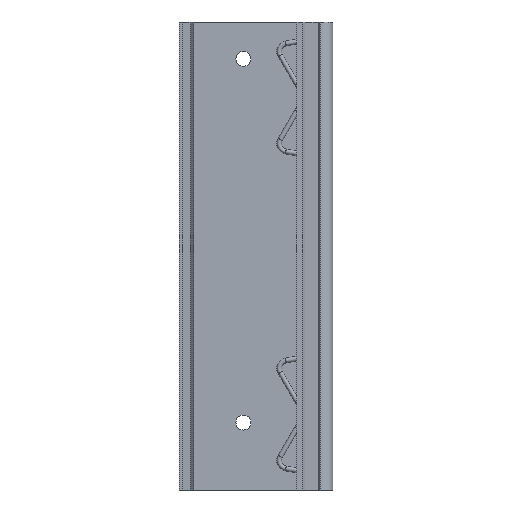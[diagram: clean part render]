
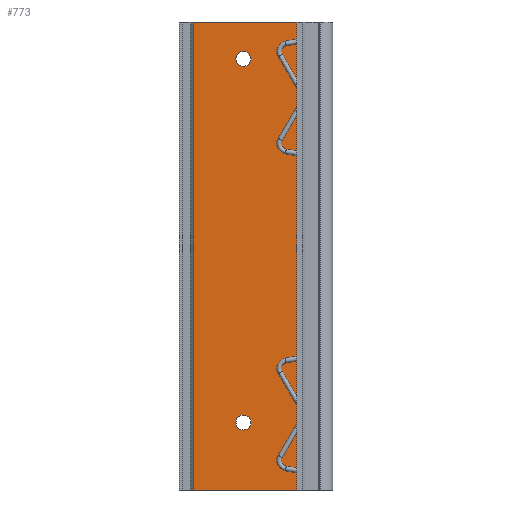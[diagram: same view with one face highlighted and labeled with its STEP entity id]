
A CAD part, left-side view. The second image highlights one B-rep face of the part: STEP entity #773.
In plain terms, the highlighted planar face has unit normal (-1, 0, 0).
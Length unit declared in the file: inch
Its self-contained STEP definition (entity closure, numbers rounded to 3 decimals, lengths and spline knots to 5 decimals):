
#237=DIRECTION('',(0.,1.,0.));
#238=VECTOR('',#237,1.3025);
#239=CARTESIAN_POINT('',(-0.08,0.455,0.98224));
#240=LINE('',#239,#238);
#241=DIRECTION('',(0.,0.,1.));
#242=VECTOR('',#241,5.90551);
#243=CARTESIAN_POINT('',(-0.08,1.7575,0.98224));
#244=LINE('',#243,#242);
#245=DIRECTION('',(0.,1.,0.));
#246=VECTOR('',#245,1.3025);
#247=CARTESIAN_POINT('',(-0.08,0.455,6.88776));
#248=LINE('',#247,#246);
#249=DIRECTION('',(0.,0.,1.));
#250=VECTOR('',#249,5.90551);
#251=CARTESIAN_POINT('',(-0.08,0.455,0.98224));
#252=LINE('',#251,#250);
#253=CARTESIAN_POINT('',(-0.08,1.13,6.42165));
#254=DIRECTION('',(1.,0.,0.));
#255=DIRECTION('',(0.,-1.,0.));
#256=AXIS2_PLACEMENT_3D('',#253,#254,#255);
#258=CARTESIAN_POINT('',(-0.08,1.13,6.42165));
#259=DIRECTION('',(1.,0.,0.));
#260=DIRECTION('',(0.,1.,0.));
#261=AXIS2_PLACEMENT_3D('',#258,#259,#260);
#263=CARTESIAN_POINT('',(-0.08,1.13,1.83365));
#264=DIRECTION('',(1.,0.,0.));
#265=DIRECTION('',(0.,-1.,0.));
#266=AXIS2_PLACEMENT_3D('',#263,#264,#265);
#268=CARTESIAN_POINT('',(-0.08,1.13,1.83365));
#269=DIRECTION('',(1.,0.,0.));
#270=DIRECTION('',(0.,1.,0.));
#271=AXIS2_PLACEMENT_3D('',#268,#269,#270);
#327=CARTESIAN_POINT('',(-0.08,1.03551,6.42165));
#328=CARTESIAN_POINT('',(-0.08,1.22449,6.42165));
#329=VERTEX_POINT('',#327);
#330=VERTEX_POINT('',#328);
#335=CARTESIAN_POINT('',(-0.08,1.03551,1.83365));
#336=CARTESIAN_POINT('',(-0.08,1.22449,1.83365));
#337=VERTEX_POINT('',#335);
#338=VERTEX_POINT('',#336);
#375=CARTESIAN_POINT('',(-0.08,0.455,0.98224));
#376=CARTESIAN_POINT('',(-0.08,1.7575,0.98224));
#377=VERTEX_POINT('',#375);
#378=VERTEX_POINT('',#376);
#379=CARTESIAN_POINT('',(-0.08,0.455,6.88776));
#380=CARTESIAN_POINT('',(-0.08,1.7575,6.88776));
#381=VERTEX_POINT('',#379);
#382=VERTEX_POINT('',#380);
#749=CARTESIAN_POINT('',(-0.08,0.455,7.87));
#750=DIRECTION('',(1.,0.,0.));
#751=DIRECTION('',(0.,1.,0.));
#752=AXIS2_PLACEMENT_3D('',#749,#750,#751);
#753=PLANE('',#752);
#754=ORIENTED_EDGE('',*,*,#461,.T.);
#755=ORIENTED_EDGE('',*,*,#442,.T.);
#757=ORIENTED_EDGE('',*,*,#756,.F.);
#758=ORIENTED_EDGE('',*,*,#741,.F.);
#759=EDGE_LOOP('',(#754,#755,#757,#758));
#760=FACE_OUTER_BOUND('',#759,.F.);
#762=ORIENTED_EDGE('',*,*,#761,.F.);
#764=ORIENTED_EDGE('',*,*,#763,.F.);
#765=EDGE_LOOP('',(#762,#764));
#766=FACE_BOUND('',#765,.F.);
#768=ORIENTED_EDGE('',*,*,#767,.F.);
#770=ORIENTED_EDGE('',*,*,#769,.F.);
#771=EDGE_LOOP('',(#768,#770));
#772=FACE_BOUND('',#771,.F.);
#773=ADVANCED_FACE('',(#760,#766,#772),#753,.F.);
#257=CIRCLE('',#256,0.09449);
#262=CIRCLE('',#261,0.09449);
#267=CIRCLE('',#266,0.09449);
#272=CIRCLE('',#271,0.09449);
#442=EDGE_CURVE('',#378,#382,#244,.T.);
#461=EDGE_CURVE('',#377,#378,#240,.T.);
#741=EDGE_CURVE('',#377,#381,#252,.T.);
#756=EDGE_CURVE('',#381,#382,#248,.T.);
#761=EDGE_CURVE('',#329,#330,#257,.T.);
#763=EDGE_CURVE('',#330,#329,#262,.T.);
#767=EDGE_CURVE('',#337,#338,#267,.T.);
#769=EDGE_CURVE('',#338,#337,#272,.T.);
